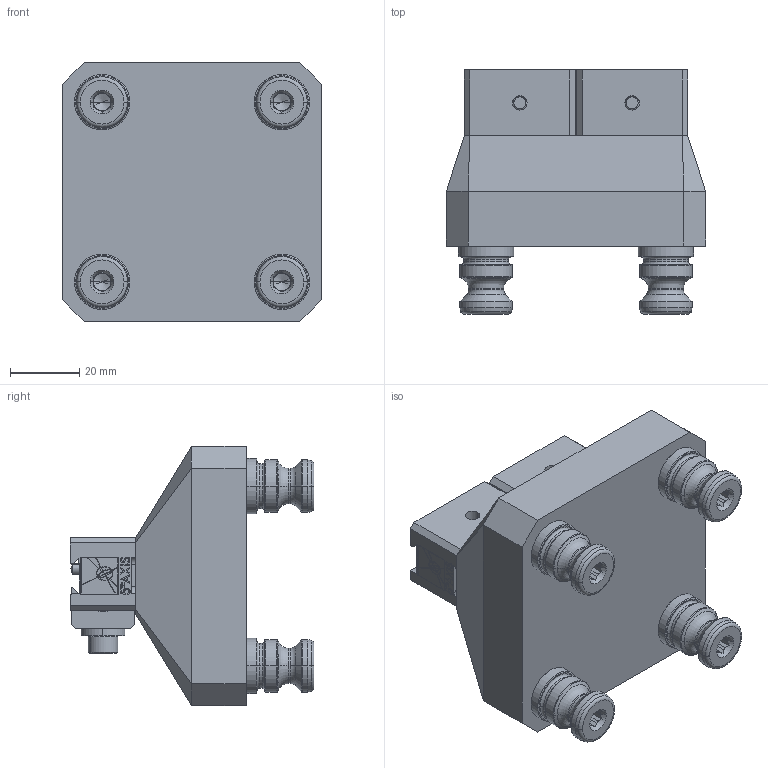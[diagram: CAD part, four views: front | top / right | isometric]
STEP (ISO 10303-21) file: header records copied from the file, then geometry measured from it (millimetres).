
FILE_DESCRIPTION (( 'STEP AP214' ), '1' );
FILE_NAME ('R52-2DM12.STEP', '2019-05-12T17:14:38', ( '' ), ( '' ), 'SwSTEP 2.0', 'SolidWorks 2018', '' );
FILE_SCHEMA (( 'AUTOMOTIVE_DESIGN' ));
Length unit declared in the file: millimetre
Products named in the file (12): DM12-1_D051251WM; PS16F; HW.39858.CPSS_M8X1.25X20MM; PS16F-1_PS16F; R52-DM12-1; R52-2DM12; DM12; 76124_91290A242; 91595A108_METRIC ALLOY STEEL DOWEL PIN_91595A108; 91595A100_METRIC ALLOY STEEL DOWEL PIN_91595A100; HW.0203X0500.FW_DEFAULT; CLW10M_CLW10
Assembly tree (16 placements, depth 3):
  R52-2DM12
    R52-DM12-1
    PS16F  x4
      PS16F-1_PS16F
      HW.39858.CPSS_M8X1.25X20MM
    DM12  x2
      DM12-1_D051251WM
      CLW10M_CLW10
      HW.0203X0500.FW_DEFAULT
      91595A100_METRIC ALLOY STEEL DOWEL PIN_91595A100
      91595A108_METRIC ALLOY STEEL DOWEL PIN_91595A108
      76124_91290A242
Bounding box: 75 x 70.56 x 75 mm (x, y, z)
Volume: 175704 mm3; surface area: 45523.8 mm2
Topology: 23 solids, 23 shells, 1618 faces, 4108 edges, 2582 vertices
Faces by surface type: plane 596, cylinder 526, cone 228, bspline 140, torus 104, sphere 24
Entity records: 30200 total; most frequent: CARTESIAN_POINT 11025, ORIENTED_EDGE 3580, DIRECTION 3059, EDGE_CURVE 1790, VERTEX_POINT 1150, AXIS2_PLACEMENT_3D 1035, LINE 989, VECTOR 989
